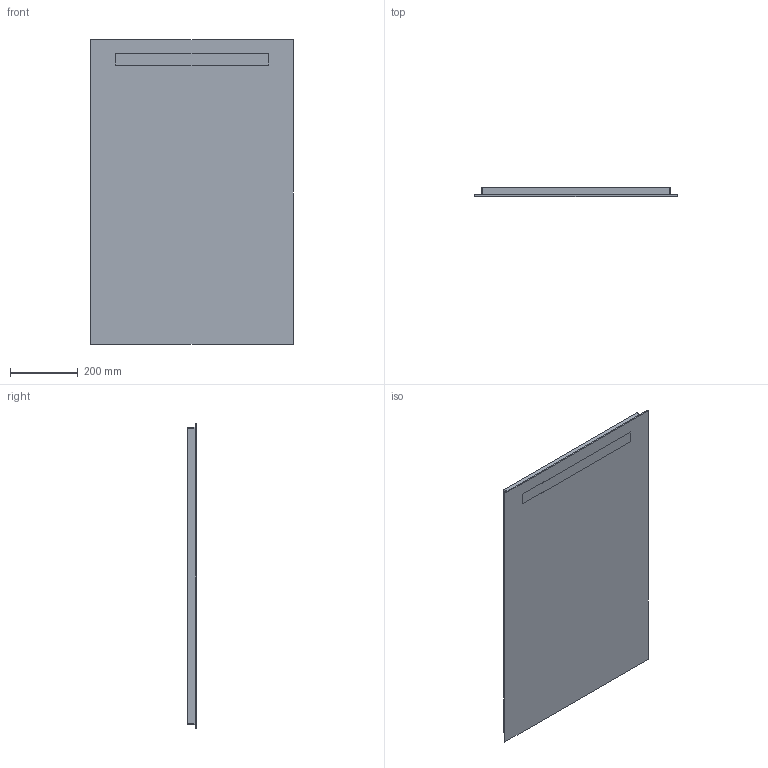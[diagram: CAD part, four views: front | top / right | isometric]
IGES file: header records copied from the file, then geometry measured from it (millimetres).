
Global section: file name: 502812; native system: Autodesk Inventor 2021; preprocessor: unknown; author: JANAN; date: 20221202.151527; units: millimetre
Bounding box: 600 x 26 x 900 mm (x, y, z)
Volume: 12997843.9 mm3; surface area: 2141933.9 mm2
Topology: 2 solids, 2 shells, 29 faces, 68 edges, 48 vertices
Faces by surface type: bspline 29
